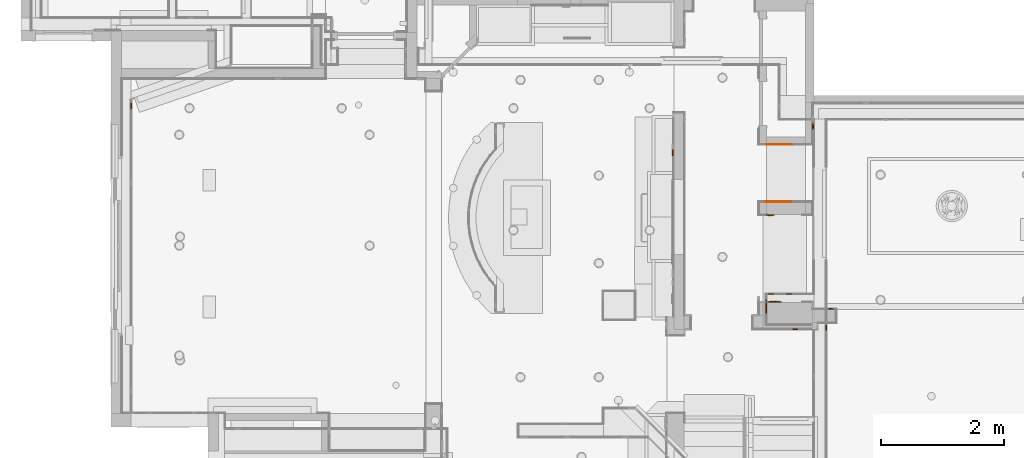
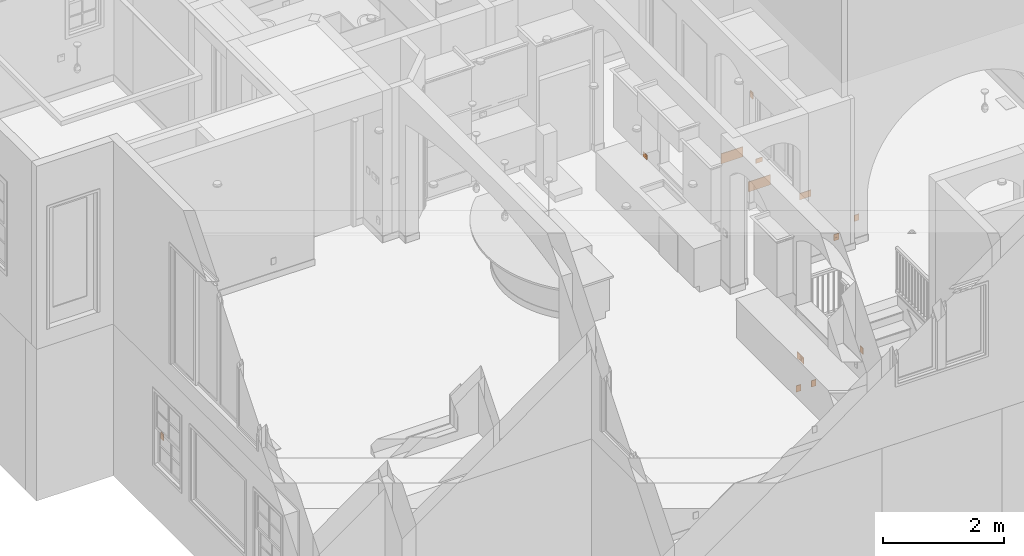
# One storey, part 66 of 81: 13 proxies.
"""IFC2X3 building model written with IfcOpenShell, lengths in feet."""

from ifc_helpers import new_model, entity, si_unit, converted_unit, derived_unit, direction, frame, frame_2d, origin, origin_2d_with_axis, place, context, subcontext, project, spatial, polyline, circle_curve, parameter, trimmed, segment, composite_curve, rectangle, outline, extrude, source, transform, mapped, material, type_object, type_shapes, element, save


model = new_model("IFC2X3")

# Units and contexts
model_context = context("Model", 3, precision=0.0001, world=origin(), true_north=direction((6.12303176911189e-17, 1.0)))
body_context = subcontext(model_context, "Body", "Model", "MODEL_VIEW")
ifc_project = project(units=[converted_unit("LENGTHUNIT", "FOOT", entity("IfcRatioMeasure", 0.3048), si_unit("LENGTHUNIT", "METRE"), dimensions=[1, 0, 0, 0, 0, 0, 0]), converted_unit("AREAUNIT", "SQUARE FOOT", entity("IfcRatioMeasure", 0.09290304), si_unit("AREAUNIT", "SQUARE_METRE"), dimensions=[2, 0, 0, 0, 0, 0, 0]), converted_unit("VOLUMEUNIT", "CUBIC FOOT", entity("IfcRatioMeasure", 0.028316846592), si_unit("VOLUMEUNIT", "CUBIC_METRE"), dimensions=[3, 0, 0, 0, 0, 0, 0]), converted_unit("PLANEANGLEUNIT", "DEGREE", entity("IfcRatioMeasure", 0.0174532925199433), si_unit("PLANEANGLEUNIT", "RADIAN"), dimensions=[0, 0, 0, 0, 0, 0, 0]), si_unit("MASSUNIT", "GRAM", prefix="KILO"), derived_unit("MASSDENSITYUNIT", [(si_unit("MASSUNIT", "GRAM", prefix="KILO"), 1), (si_unit("LENGTHUNIT", "METRE"), -3)]), derived_unit("MOMENTOFINERTIAUNIT", [(si_unit("LENGTHUNIT", "METRE"), 4)]), si_unit("TIMEUNIT", "SECOND"), si_unit("FREQUENCYUNIT", "HERTZ"), si_unit("THERMODYNAMICTEMPERATUREUNIT", "DEGREE_CELSIUS"), derived_unit("THERMALTRANSMITTANCEUNIT", [(si_unit("MASSUNIT", "GRAM", prefix="KILO"), 1), (si_unit("THERMODYNAMICTEMPERATUREUNIT", "KELVIN"), -1), (si_unit("TIMEUNIT", "SECOND"), -3)]), derived_unit("VOLUMETRICFLOWRATEUNIT", [(si_unit("LENGTHUNIT", "METRE"), 3), (si_unit("TIMEUNIT", "SECOND"), -1)]), si_unit("ELECTRICCURRENTUNIT", "AMPERE"), si_unit("ELECTRICVOLTAGEUNIT", "VOLT"), si_unit("POWERUNIT", "WATT"), si_unit("FORCEUNIT", "NEWTON"), si_unit("ILLUMINANCEUNIT", "LUX"), si_unit("LUMINOUSFLUXUNIT", "LUMEN"), si_unit("LUMINOUSINTENSITYUNIT", "CANDELA"), derived_unit("USERDEFINED", [(si_unit("MASSUNIT", "GRAM", prefix="KILO"), -1), (si_unit("LENGTHUNIT", "METRE"), -2), (si_unit("TIMEUNIT", "SECOND"), 3), (si_unit("LUMINOUSFLUXUNIT", "LUMEN"), 1)]), derived_unit("LINEARVELOCITYUNIT", [(si_unit("LENGTHUNIT", "METRE"), 1), (si_unit("TIMEUNIT", "SECOND"), -1)]), si_unit("PRESSUREUNIT", "PASCAL"), derived_unit("USERDEFINED", [(si_unit("LENGTHUNIT", "METRE"), -2), (si_unit("MASSUNIT", "GRAM", prefix="KILO"), 1), (si_unit("TIMEUNIT", "SECOND"), -2)]), derived_unit("LINEARFORCEUNIT", [(si_unit("MASSUNIT", "GRAM", prefix="KILO"), 1), (si_unit("LENGTHUNIT", "METRE"), 1), (si_unit("TIMEUNIT", "SECOND"), -2), (si_unit("LENGTHUNIT", "METRE"), -1)]), derived_unit("PLANARFORCEUNIT", [(si_unit("MASSUNIT", "GRAM", prefix="KILO"), 1), (si_unit("LENGTHUNIT", "METRE"), 1), (si_unit("TIMEUNIT", "SECOND"), -2), (si_unit("LENGTHUNIT", "METRE"), -2)])], contexts=[model_context])

# Site, building, storey
site_placement = place(None, origin())
site = spatial("IfcSite", under=ifc_project, at=site_placement, Name="Default", CompositionType="ELEMENT")
building_placement = place(site_placement, origin())
building = spatial("IfcBuilding", under=site, at=building_placement, CompositionType="ELEMENT")
storey_placement = place(building_placement, origin())
storey = spatial("IfcBuildingStorey", under=building, at=storey_placement, Name="First floor", CompositionType="ELEMENT", Elevation=0.0)

# Proxies
ifc_material = material(Name="Default New Material")
building_element_proxy_type_1 = type_object("IfcBuildingElementProxyType", Name="Switch 4:Switch 4", PredefinedType="NOTDEFINED", material=ifc_material)
shared_shape_1 = source(origin(), body_context, "Body", "SweptSolid", [
    extrude(outline(composite_curve([segment(polyline([(-0.0309162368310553, -0.0465871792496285), (0.0309162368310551, -0.0465871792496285)]), True, "CONTINUOUS"), segment(trimmed(circle_curve(frame_2d((-0.000264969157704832, 0.0), x_axis=(-1.0, 0.0)), 0.056059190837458), [parameter(123.794740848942)], [parameter(236.205259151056)], True, "PARAMETER"), True, "CONTINUOUS"), segment(polyline([(0.0309162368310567, 0.0465871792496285), (-0.0309162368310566, 0.0465871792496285)]), True, "CONTINUOUS"), segment(trimmed(circle_curve(frame_2d((0.000264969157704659, 0.0), x_axis=(1.0, 0.0)), 0.056059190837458), [parameter(123.794740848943)], [parameter(236.205259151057)], True, "PARAMETER"), True, "CONTINUOUS")], self_intersect=False), holes=[polyline([(0.0141623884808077, 0.0279286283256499), (0.0261732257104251, 0.0279286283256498), (0.026173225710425, -0.00693584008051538), (0.0141623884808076, -0.00693584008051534), (0.0141623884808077, 0.0279286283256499)]), polyline([(-0.0152702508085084, 0.0250466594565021), (-0.0152702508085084, -0.00448340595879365), (-0.0278178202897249, -0.00448340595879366), (-0.0278178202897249, 0.0250466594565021), (-0.0152702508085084, 0.0250466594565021)]), composite_curve([segment(polyline([(-0.0120315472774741, -0.041319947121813), (-0.0120315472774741, -0.0300186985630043)]), True, "CONTINUOUS"), segment(trimmed(circle_curve(frame_2d((-0.000284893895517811, -0.0300186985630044), x_axis=(-1.0, 0.0)), 0.0117466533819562), [parameter(180.0)], [parameter(0.0)], True, "PARAMETER"), False, "CONTINUOUS"), segment(polyline([(0.0114617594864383, -0.0300186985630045), (0.0114617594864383, -0.0413199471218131)]), True, "CONTINUOUS"), segment(polyline([(0.0114617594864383, -0.0413199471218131), (-0.0120315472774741, -0.041319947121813)]), True, "CONTINUOUS")], self_intersect=False)]), frame((-0.0114927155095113, 0.0416666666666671, 0.27060332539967), z_axis=(0.0, 1.0, 0.0), x_axis=(-1.0, 0.0, 0.0)), (0.0, 0.0, 1.0), 0.00420900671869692),
    extrude(outline(composite_curve([segment(polyline([(-0.0307631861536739, -0.0463565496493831), (0.0307631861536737, -0.0463565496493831)]), True, "CONTINUOUS"), segment(trimmed(circle_curve(frame_2d((-0.000263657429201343, 0.0), x_axis=(-1.0, 0.0)), 0.0557816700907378), [parameter(123.794740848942)], [parameter(236.205259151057)], True, "PARAMETER"), True, "CONTINUOUS"), segment(polyline([(0.030763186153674, 0.0463565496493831), (-0.0307631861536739, 0.0463565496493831)]), True, "CONTINUOUS"), segment(trimmed(circle_curve(frame_2d((0.00026365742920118, 0.0), x_axis=(1.0, 0.0)), 0.0557816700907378), [parameter(123.794740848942)], [parameter(236.205259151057)], True, "PARAMETER"), True, "CONTINUOUS")], self_intersect=False), holes=[polyline([(0.0140922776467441, 0.0247228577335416), (0.026043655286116, 0.0247228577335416), (0.0260436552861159, -0.00472751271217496), (0.014092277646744, -0.00472751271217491), (0.0140922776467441, 0.0247228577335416)]), polyline([(-0.0151946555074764, 0.0249226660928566), (-0.0151946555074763, -0.0044612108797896), (-0.0276801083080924, -0.00446121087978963), (-0.0276801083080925, 0.0249226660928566), (-0.0151946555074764, 0.0249226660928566)]), composite_curve([segment(polyline([(-0.0119719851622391, -0.0411153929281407), (-0.011971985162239, -0.0298700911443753)]), True, "CONTINUOUS"), segment(trimmed(circle_curve(frame_2d((-0.000283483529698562, -0.0298700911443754), x_axis=(-1.0, 0.0)), 0.0116885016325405), [parameter(180.0)], [parameter(0.0)], True, "PARAMETER"), False, "CONTINUOUS"), segment(polyline([(0.0114050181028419, -0.0298700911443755), (0.0114050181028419, -0.0411153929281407)]), True, "CONTINUOUS"), segment(polyline([(0.0114050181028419, -0.0411153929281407), (-0.0119719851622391, -0.0411153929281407)]), True, "CONTINUOUS")], self_intersect=False)]), frame((-0.0114927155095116, 0.0416666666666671, 0.145832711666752), z_axis=(0.0, 1.0, 0.0), x_axis=(-1.0, 0.0, 0.0)), (0.0, 0.0, 1.0), 0.00420900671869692),
    extrude(rectangle(XDim=0.0416666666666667, YDim=0.291666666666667, at=frame_2d((0.0, 1.38777878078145e-17), x_axis=(1.0, 0.0))), frame((-0.0114927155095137, 0.0208333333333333, 0.0), z_axis=(0.0, 0.0, 1.0), x_axis=(0.0, -1.0, 0.0)), (0.0, 0.0, 1.0), 0.416666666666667),
])
type_shapes(building_element_proxy_type_1, [shared_shape_1])
for number, where, name in (
    (1, (19.0531593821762, 17.5416666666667, 0.958335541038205), "Switch 4:Switch 4"),
    (2, (18.0948260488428, 17.5416666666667, 0.958335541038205), "Switch 4:Switch 4"),
    (3, (21.282326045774, 16.7500003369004, 11.6250022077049), "Switch 4:Switch 4"),
):
    element("IfcBuildingElementProxy", number, at=place(storey_placement, frame(where)), inside=storey, type_object=building_element_proxy_type_1, material=ifc_material, Name=name, ObjectType="Switch 4:Switch 4", context=body_context, shape_type="MappedRepresentation", body=[
        mapped(shared_shape_1, transform((0.0, 0.0, 0.0), scale=1.0)),
    ])
proxy_1_placement = place(storey_placement, frame((19.3635072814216, 15.7079881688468, 11.6666666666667), z_axis=(0.0, 0.0, 1.0), x_axis=(-1.0, 0.0, 0.0)))
element("IfcBuildingElementProxy", 4, at=proxy_1_placement, inside=storey, type_object=building_element_proxy_type_1, material=ifc_material, Name="Switch 4:Switch 4", ObjectType="Switch 4:Switch 4", context=body_context, shape_type="MappedRepresentation", body=[
    mapped(shared_shape_1, transform((0.0, 0.0, 0.0), scale=1.0)),
])
building_element_proxy_type_2 = type_object("IfcBuildingElementProxyType", Name="Switch 1:Switch 1", PredefinedType="NOTDEFINED", material=ifc_material)
shared_shape_2 = source(origin(), body_context, "Body", "SweptSolid", [
    extrude(rectangle(XDim=0.0416666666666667, YDim=0.291666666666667, at=frame_2d((1.73472347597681e-18, -1.38777878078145e-17), x_axis=(1.0, 0.0))), frame((0.0149704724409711, 0.0208333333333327, 0.0), z_axis=(0.0, 0.0, 1.0), x_axis=(0.0, 1.0, 0.0)), (0.0, 0.0, 1.0), 0.416666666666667),
])
type_shapes(building_element_proxy_type_2, [shared_shape_2])
for number, where, z_axis, x_axis, name in (
    (5, (21.0, 15.7858038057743, 3.54166666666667), (0.0, 0.0, 1.0), (0.0, -1.0, 0.0), "Switch 1:Switch 1"),
    (6, (-15.9999422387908, 27.5983038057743, 3.625), (0.0, 0.0, 1.0), (0.0, -1.0, 0.0), "Switch 1:Switch 1"),
):
    element("IfcBuildingElementProxy", number, at=place(storey_placement, frame(where, z_axis=z_axis, x_axis=x_axis)), inside=storey, type_object=building_element_proxy_type_2, material=ifc_material, Name=name, ObjectType="Switch 1:Switch 1", context=body_context, shape_type="MappedRepresentation", body=[
        mapped(shared_shape_2, transform((0.0, 0.0, 0.0), scale=1.0)),
    ])
building_element_proxy_type_3 = type_object("IfcBuildingElementProxyType", Name="Switch 22:Switch 22", PredefinedType="NOTDEFINED", material=ifc_material)
shared_shape_3 = source(origin(), body_context, "Body", "SweptSolid", [
    extrude(outline(polyline([(-0.0259922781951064, -0.0993451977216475), (-0.00568037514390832, -0.0993451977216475), (-0.00432436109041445, -0.021559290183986), (0.021153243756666, 0.109511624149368), (0.0148437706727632, 0.110738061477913), (-0.0259922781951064, -0.0993451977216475)])), frame((0.216904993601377, 0.0482254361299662, 0.203805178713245), z_axis=(1.0, 0.0, 0.0), x_axis=(0.0, 0.981627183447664, 0.190808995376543)), (0.0, 0.0, 1.0), 0.104166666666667),
    extrude(outline(polyline([(-0.0259922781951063, -0.0993451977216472), (-0.00568037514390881, -0.0993451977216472), (-0.00432436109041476, -0.0215592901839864), (0.0211532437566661, 0.109511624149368), (0.0148437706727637, 0.110738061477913), (-0.0259922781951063, -0.0993451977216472)])), frame((0.0752383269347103, 0.0482254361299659, 0.203805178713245), z_axis=(1.0, 0.0, 0.0), x_axis=(0.0, 0.981627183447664, 0.190808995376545)), (0.0, 0.0, 1.0), 0.104166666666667),
    extrude(outline(polyline([(-0.102069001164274, -0.00649102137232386), (0.111946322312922, -0.00649102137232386), (0.111946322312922, -6.34558053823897e-05), (-0.0235644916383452, -6.34558053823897e-05), (-0.0982591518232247, 0.0131089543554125), (-0.102069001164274, -0.00649102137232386)])), frame((-0.0664283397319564, 0.0481576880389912, 0.2120154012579), z_axis=(1.0, 0.0, 0.0), x_axis=(0.0, 0.0, -1.0)), (0.0, 0.0, 1.0), 0.104166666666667),
    extrude(outline(polyline([(-0.102069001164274, -0.00649102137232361), (0.111946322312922, -0.00649102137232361), (0.111946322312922, -6.34558053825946e-05), (-0.0235644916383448, -6.34558053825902e-05), (-0.0982591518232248, 0.0131089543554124), (-0.102069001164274, -0.00649102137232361)])), frame((-0.208095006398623, 0.048157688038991, 0.2120154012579), z_axis=(1.0, 0.0, 0.0), x_axis=(0.0, 0.0, -1.0)), (0.0, 0.0, 1.0), 0.104166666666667),
    extrude(rectangle(XDim=0.0416666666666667, YDim=0.708333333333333, at=origin_2d_with_axis()), frame((0.0564883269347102, 0.0208333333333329, 0.0), z_axis=(0.0, 0.0, 1.0), x_axis=(0.0, -1.0, 0.0)), (0.0, 0.0, 1.0), 0.416666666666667),
])
type_shapes(building_element_proxy_type_3, [shared_shape_3])
proxy_2_placement = place(storey_placement, frame((17.8541666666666, 16.8393450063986, 3.45833333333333), z_axis=(0.0, 0.0, 1.0), x_axis=(0.0, 1.0, 0.0)))
element("IfcBuildingElementProxy", 7, at=proxy_2_placement, inside=storey, type_object=building_element_proxy_type_3, material=ifc_material, Name="Switch 22:Switch 22", ObjectType="Switch 22:Switch 22", context=body_context, shape_type="MappedRepresentation", body=[
    mapped(shared_shape_3, transform((0.0, 0.0, 0.0), scale=1.0)),
])
proxy_3_placement = place(storey_placement, frame((18.2143450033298, 17.1246548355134, 13.9583333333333)))
element("IfcBuildingElementProxy", 8, at=proxy_3_placement, inside=storey, type_object=building_element_proxy_type_3, material=ifc_material, Name="Switch 22:Switch 22", ObjectType="Switch 22:Switch 22", context=body_context, shape_type="MappedRepresentation", body=[
    mapped(shared_shape_3, transform((0.0, 0.0, 0.0), scale=1.0)),
])
building_element_proxy_type_4 = type_object("IfcBuildingElementProxyType", Name="Switch 15:Switch 15", PredefinedType="NOTDEFINED", material=ifc_material)
shared_shape_4 = source(origin(), body_context, "Body", "SweptSolid", [
    extrude(outline(composite_curve([segment(polyline([(-0.0309162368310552, -0.0465871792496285), (0.030916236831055, -0.0465871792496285)]), True, "CONTINUOUS"), segment(trimmed(circle_curve(frame_2d((-0.000264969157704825, 0.0), x_axis=(-1.0, 0.0)), 0.056059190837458), [parameter(123.794740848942)], [parameter(236.205259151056)], True, "PARAMETER"), True, "CONTINUOUS"), segment(polyline([(0.0309162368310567, 0.0465871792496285), (-0.0309162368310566, 0.0465871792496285)]), True, "CONTINUOUS"), segment(trimmed(circle_curve(frame_2d((0.000264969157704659, 0.0), x_axis=(1.0, 0.0)), 0.056059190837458), [parameter(123.794740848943)], [parameter(236.205259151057)], True, "PARAMETER"), True, "CONTINUOUS")], self_intersect=False), holes=[polyline([(0.0141623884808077, 0.0279286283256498), (0.026173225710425, 0.0279286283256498), (0.0261732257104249, -0.00693584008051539), (0.0141623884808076, -0.00693584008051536), (0.0141623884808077, 0.0279286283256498)]), polyline([(-0.0152702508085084, 0.0250466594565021), (-0.0152702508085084, -0.00448340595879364), (-0.0278178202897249, -0.00448340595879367), (-0.027817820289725, 0.025046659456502), (-0.0152702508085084, 0.0250466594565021)]), composite_curve([segment(polyline([(-0.0120315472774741, -0.041319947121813), (-0.0120315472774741, -0.0300186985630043)]), True, "CONTINUOUS"), segment(trimmed(circle_curve(frame_2d((-0.000284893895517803, -0.0300186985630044), x_axis=(-1.0, 0.0)), 0.0117466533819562), [parameter(180.0)], [parameter(0.0)], True, "PARAMETER"), False, "CONTINUOUS"), segment(polyline([(0.0114617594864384, -0.0300186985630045), (0.0114617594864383, -0.0413199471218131)]), True, "CONTINUOUS"), segment(polyline([(0.0114617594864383, -0.0413199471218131), (-0.0120315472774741, -0.041319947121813)]), True, "CONTINUOUS")], self_intersect=False)]), frame((-0.0667122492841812, 0.0416666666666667, 0.14583333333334), z_axis=(0.0, 1.0, 0.0), x_axis=(0.0, 0.0, -1.0)), (0.0, 0.0, 1.0), 0.00420900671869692),
    extrude(outline(composite_curve([segment(polyline([(-0.0307631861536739, -0.0463565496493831), (0.0307631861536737, -0.0463565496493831)]), True, "CONTINUOUS"), segment(trimmed(circle_curve(frame_2d((-0.000263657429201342, 0.0), x_axis=(-1.0, 0.0)), 0.0557816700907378), [parameter(123.794740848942)], [parameter(236.205259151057)], True, "PARAMETER"), True, "CONTINUOUS"), segment(polyline([(0.030763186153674, 0.0463565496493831), (-0.0307631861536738, 0.0463565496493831)]), True, "CONTINUOUS"), segment(trimmed(circle_curve(frame_2d((0.000263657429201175, 0.0), x_axis=(1.0, 0.0)), 0.0557816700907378), [parameter(123.794740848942)], [parameter(236.205259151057)], True, "PARAMETER"), True, "CONTINUOUS")], self_intersect=False), holes=[polyline([(0.0140922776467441, 0.0247228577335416), (0.026043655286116, 0.0247228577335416), (0.0260436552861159, -0.00472751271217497), (0.014092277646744, -0.00472751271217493), (0.0140922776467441, 0.0247228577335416)]), polyline([(-0.0151946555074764, 0.0249226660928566), (-0.0151946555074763, -0.00446121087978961), (-0.0276801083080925, -0.00446121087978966), (-0.0276801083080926, 0.0249226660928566), (-0.0151946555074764, 0.0249226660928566)]), composite_curve([segment(polyline([(-0.0119719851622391, -0.0411153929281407), (-0.0119719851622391, -0.0298700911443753)]), True, "CONTINUOUS"), segment(trimmed(circle_curve(frame_2d((-0.000283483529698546, -0.0298700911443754), x_axis=(-1.0, 0.0)), 0.0116885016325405), [parameter(180.0)], [parameter(1.01777749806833e-13)], True, "PARAMETER"), False, "CONTINUOUS"), segment(polyline([(0.011405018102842, -0.0298700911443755), (0.0114050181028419, -0.0411153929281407)]), True, "CONTINUOUS"), segment(polyline([(0.0114050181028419, -0.0411153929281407), (-0.0119719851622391, -0.0411153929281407)]), True, "CONTINUOUS")], self_intersect=False)]), frame((0.058058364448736, 0.0416666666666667, 0.145833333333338), z_axis=(0.0, 1.0, 0.0), x_axis=(0.0, 0.0, -1.0)), (0.0, 0.0, 1.0), 0.00420900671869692),
    extrude(rectangle(XDim=0.0416666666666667, YDim=0.416666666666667, at=origin_2d_with_axis()), frame((-0.00444225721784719, 0.0208333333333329, 0.0), z_axis=(0.0, 0.0, 1.0), x_axis=(0.0, -1.0, 0.0)), (0.0, 0.0, 1.0), 0.291666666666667),
])
type_shapes(building_element_proxy_type_4, [shared_shape_4])
proxy_4_placement = place(storey_placement, frame((18.0372244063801, 21.7913215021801, 13.5859959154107), z_axis=(0.0, 0.0, 1.0), x_axis=(-1.0, 0.0, 0.0)))
element("IfcBuildingElementProxy", 9, at=proxy_4_placement, inside=storey, type_object=building_element_proxy_type_4, material=ifc_material, Name="Switch 15:Switch 15", ObjectType="Switch 15:Switch 15", context=body_context, shape_type="MappedRepresentation", body=[
    mapped(shared_shape_4, transform((0.0, 0.0, 0.0), scale=1.0)),
])
building_element_proxy_type_5 = type_object("IfcBuildingElementProxyType", Name="Switch 3:Switch 3", PredefinedType="NOTDEFINED", material=ifc_material)
shared_shape_5 = source(origin(), body_context, "Body", "SweptSolid", [
    extrude(outline(polyline([(-0.104054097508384, -0.005864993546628), (0.112106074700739, -0.005864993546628), (0.112106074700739, -0.000652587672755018), (-0.0212705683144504, -0.000652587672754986), (-0.0988874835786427, 0.0130351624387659), (-0.104054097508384, -0.005864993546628)])), frame((-0.0648037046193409, 0.0475316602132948, 0.212359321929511), z_axis=(1.0, 0.0, 0.0), x_axis=(0.0, 0.0, -1.0)), (0.0, 0.0, 1.0), 0.104166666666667),
    extrude(rectangle(XDim=0.0416666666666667, YDim=0.291666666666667, at=frame_2d((0.0, -1.38777878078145e-17), x_axis=(1.0, 0.0))), frame((-0.012720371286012, 0.020833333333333, 0.0), z_axis=(0.0, 0.0, 1.0), x_axis=(0.0, -1.0, 0.0)), (0.0, 0.0, 1.0), 0.416666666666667),
])
type_shapes(building_element_proxy_type_5, [shared_shape_5])
proxy_5_placement = place(storey_placement, frame((20.2916666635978, 26.4664462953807, 14.2083333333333), z_axis=(0.0, 0.0, 1.0), x_axis=(0.0, -1.0, 0.0)))
element("IfcBuildingElementProxy", 10, at=proxy_5_placement, inside=storey, type_object=building_element_proxy_type_5, material=ifc_material, Name="Switch 3:Switch 3", ObjectType="Switch 3:Switch 3", context=body_context, shape_type="MappedRepresentation", body=[
    mapped(shared_shape_5, transform((0.0, 0.0, 0.0), scale=1.0)),
])
building_element_proxy_type_6 = type_object("IfcBuildingElementProxyType", Name="Generic_01:Generic_01", PredefinedType="NOTDEFINED", material=ifc_material)
shared_shape_6 = source(origin(), body_context, "Body", "SweptSolid", [
    extrude(rectangle(XDim=1.375, YDim=0.041666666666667, at=origin_2d_with_axis()), frame((0.0, -0.0208333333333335, 0.0), z_axis=(0.0, 0.0, 1.0), x_axis=(-1.0, 0.0, 0.0)), (0.0, 0.0, 1.0), 0.666666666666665),
])
type_shapes(building_element_proxy_type_6, [shared_shape_6])
for number, where, name in (
    (11, (18.5208333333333, 25.5413215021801, 11.2916666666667), "Generic_01:Generic_01"),
    (12, (18.4791666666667, 22.4996548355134, 11.2916666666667), "Generic_01:Generic_01"),
):
    element("IfcBuildingElementProxy", number, at=place(storey_placement, frame(where)), inside=storey, type_object=building_element_proxy_type_6, material=ifc_material, Name=name, ObjectType="Generic_01:Generic_01", context=body_context, shape_type="MappedRepresentation", body=[
        mapped(shared_shape_6, transform((0.0, 0.0, 0.0), scale=1.0)),
    ])
building_element_proxy_type_7 = type_object("IfcBuildingElementProxyType", Name="Switch 15:Switch 15", PredefinedType="NOTDEFINED", material=ifc_material)
shared_shape_7 = source(origin(), body_context, "Body", "SweptSolid", [
    extrude(outline(composite_curve([segment(polyline([(-0.0309162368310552, -0.0465871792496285), (0.0309162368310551, -0.0465871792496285)]), True, "CONTINUOUS"), segment(trimmed(circle_curve(frame_2d((-0.000264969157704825, 0.0), x_axis=(-1.0, 0.0)), 0.056059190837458), [parameter(123.794740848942)], [parameter(236.205259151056)], True, "PARAMETER"), True, "CONTINUOUS"), segment(polyline([(0.0309162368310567, 0.0465871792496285), (-0.0309162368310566, 0.0465871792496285)]), True, "CONTINUOUS"), segment(trimmed(circle_curve(frame_2d((0.000264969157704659, 0.0), x_axis=(1.0, 0.0)), 0.056059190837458), [parameter(123.794740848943)], [parameter(236.205259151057)], True, "PARAMETER"), True, "CONTINUOUS")], self_intersect=False), holes=[polyline([(0.0141623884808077, 0.0279286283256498), (0.0261732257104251, 0.0279286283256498), (0.0261732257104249, -0.00693584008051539), (0.0141623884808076, -0.00693584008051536), (0.0141623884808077, 0.0279286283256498)]), polyline([(-0.0152702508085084, 0.0250466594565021), (-0.0152702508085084, -0.00448340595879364), (-0.0278178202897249, -0.00448340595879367), (-0.027817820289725, 0.025046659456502), (-0.0152702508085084, 0.0250466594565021)]), composite_curve([segment(polyline([(-0.0120315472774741, -0.041319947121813), (-0.0120315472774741, -0.0300186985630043)]), True, "CONTINUOUS"), segment(trimmed(circle_curve(frame_2d((-0.000284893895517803, -0.0300186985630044), x_axis=(-1.0, 0.0)), 0.0117466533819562), [parameter(180.0)], [parameter(0.0)], True, "PARAMETER"), False, "CONTINUOUS"), segment(polyline([(0.0114617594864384, -0.0300186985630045), (0.0114617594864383, -0.0413199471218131)]), True, "CONTINUOUS"), segment(polyline([(0.0114617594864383, -0.0413199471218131), (-0.0120315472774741, -0.041319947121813)]), True, "CONTINUOUS")], self_intersect=False)]), frame((-0.0667122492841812, -0.0458756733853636, 0.14583333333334), z_axis=(0.0, 1.0, 0.0), x_axis=(0.0, 0.0, -1.0)), (0.0, 0.0, 1.0), 0.00420900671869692),
    extrude(outline(composite_curve([segment(polyline([(-0.0307631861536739, -0.0463565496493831), (0.0307631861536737, -0.0463565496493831)]), True, "CONTINUOUS"), segment(trimmed(circle_curve(frame_2d((-0.000263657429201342, 0.0), x_axis=(-1.0, 0.0)), 0.0557816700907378), [parameter(123.794740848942)], [parameter(236.205259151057)], True, "PARAMETER"), True, "CONTINUOUS"), segment(polyline([(0.030763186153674, 0.0463565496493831), (-0.0307631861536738, 0.0463565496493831)]), True, "CONTINUOUS"), segment(trimmed(circle_curve(frame_2d((0.000263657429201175, 0.0), x_axis=(1.0, 0.0)), 0.0557816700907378), [parameter(123.794740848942)], [parameter(236.205259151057)], True, "PARAMETER"), True, "CONTINUOUS")], self_intersect=False), holes=[polyline([(0.0140922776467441, 0.0247228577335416), (0.026043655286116, 0.0247228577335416), (0.0260436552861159, -0.00472751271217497), (0.014092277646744, -0.00472751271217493), (0.0140922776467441, 0.0247228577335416)]), polyline([(-0.0151946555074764, 0.0249226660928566), (-0.0151946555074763, -0.00446121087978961), (-0.0276801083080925, -0.00446121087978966), (-0.0276801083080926, 0.0249226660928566), (-0.0151946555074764, 0.0249226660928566)]), composite_curve([segment(polyline([(-0.0119719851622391, -0.0411153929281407), (-0.0119719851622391, -0.0298700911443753)]), True, "CONTINUOUS"), segment(trimmed(circle_curve(frame_2d((-0.000283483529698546, -0.0298700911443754), x_axis=(-1.0, 0.0)), 0.0116885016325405), [parameter(180.0)], [parameter(1.01777749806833e-13)], True, "PARAMETER"), False, "CONTINUOUS"), segment(polyline([(0.011405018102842, -0.0298700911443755), (0.0114050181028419, -0.0411153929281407)]), True, "CONTINUOUS"), segment(polyline([(0.0114050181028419, -0.0411153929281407), (-0.0119719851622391, -0.0411153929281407)]), True, "CONTINUOUS")], self_intersect=False)]), frame((0.058058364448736, -0.0458756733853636, 0.145833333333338), z_axis=(0.0, 1.0, 0.0), x_axis=(0.0, 0.0, -1.0)), (0.0, 0.0, 1.0), 0.00420900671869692),
    extrude(rectangle(XDim=0.416666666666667, YDim=0.0416666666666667, at=origin_2d_with_axis()), frame((-0.00444225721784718, -0.0208333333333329, 0.0)), (0.0, 0.0, 1.0), 0.291666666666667),
])
type_shapes(building_element_proxy_type_7, [shared_shape_7])
proxy_6_placement = place(storey_placement, frame((12.875, 25.1202125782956, 13.6666666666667), z_axis=(0.0, 0.0, 1.0), x_axis=(0.0, -1.0, 0.0)))
element("IfcBuildingElementProxy", 13, at=proxy_6_placement, inside=storey, type_object=building_element_proxy_type_7, material=ifc_material, Name="Switch 15:Switch 15", ObjectType="Switch 15:Switch 15", context=body_context, shape_type="MappedRepresentation", body=[
    mapped(shared_shape_7, transform((0.0, 0.0, 0.0), scale=1.0)),
])

save(model, "model.ifc")
